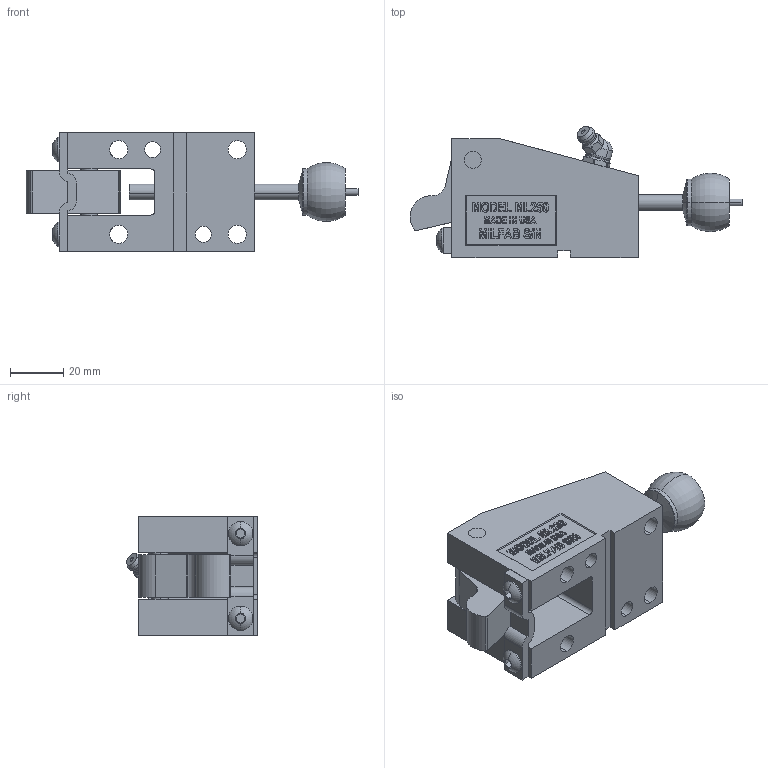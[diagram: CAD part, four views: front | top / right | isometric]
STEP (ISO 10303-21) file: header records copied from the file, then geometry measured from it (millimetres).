
FILE_DESCRIPTION (( 'STEP AP214' ), '1' );
FILE_NAME ('ML25045-C.STEP', '2014-01-07T20:11:01', ( 'user' ), ( '' ), 'SwSTEP 2.0', 'SolidWorks 2009', '' );
FILE_SCHEMA (( 'AUTOMOTIVE_DESIGN' ));
Length unit declared in the file: inch
Products named in the file (1): ML25045-C
Bounding box: 124.4 x 49.12 x 44.45 mm (x, y, z)
Surface area: 31124.8 mm2 (no closed solid volume)
Topology: 0 solids, 11 shells, 518 faces, 1451 edges, 969 vertices
Faces by surface type: plane 324, bspline 87, cylinder 71, torus 22, cone 14
Entity records: 28407 total; most frequent: CARTESIAN_POINT 8983, ORIENTED_EDGE 2752, DIRECTION 2241, EDGE_CURVE 1449, VECTOR 969, LINE 969, VERTEX_POINT 969, AXIS2_PLACEMENT_3D 636
